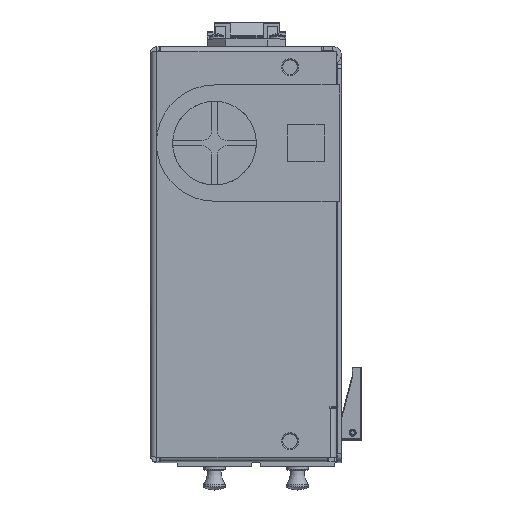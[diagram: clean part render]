
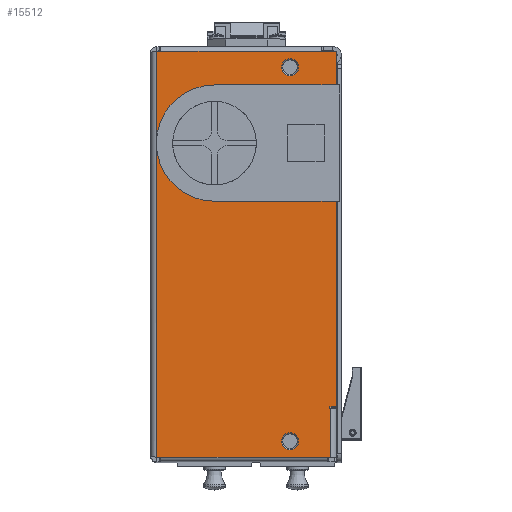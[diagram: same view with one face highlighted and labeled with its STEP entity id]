
A CAD part, top view. The second image highlights one B-rep face of the part: STEP entity #15512.
In plain terms, the highlighted planar face has unit normal (0, 0, 1) as drawn and (-1, 0, 0) by its records, which use the part's own axes.
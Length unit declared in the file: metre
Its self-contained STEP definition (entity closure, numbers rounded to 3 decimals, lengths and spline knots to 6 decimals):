
#1421=CIRCLE('',#18427,0.019368);
#1423=CIRCLE('',#18435,0.000254);
#1424=CIRCLE('',#18437,0.003239);
#1425=CIRCLE('',#18438,0.003239);
#4056=ORIENTED_EDGE('',*,*,#7108,.F.);
#4057=ORIENTED_EDGE('',*,*,#7109,.F.);
#4058=ORIENTED_EDGE('',*,*,#7080,.F.);
#4059=ORIENTED_EDGE('',*,*,#7110,.T.);
#4060=ORIENTED_EDGE('',*,*,#7081,.F.);
#4061=ORIENTED_EDGE('',*,*,#7087,.F.);
#4062=ORIENTED_EDGE('',*,*,#7090,.T.);
#4063=ORIENTED_EDGE('',*,*,#7111,.T.);
#4064=ORIENTED_EDGE('',*,*,#7091,.F.);
#4065=ORIENTED_EDGE('',*,*,#7097,.T.);
#4066=ORIENTED_EDGE('',*,*,#7112,.T.);
#4067=ORIENTED_EDGE('',*,*,#7101,.T.);
#4068=ORIENTED_EDGE('',*,*,#7113,.F.);
#4069=ORIENTED_EDGE('',*,*,#7105,.F.);
#4070=ORIENTED_EDGE('',*,*,#7107,.T.);
#4071=ORIENTED_EDGE('',*,*,#7077,.T.);
#7077=EDGE_CURVE('',#8812,#8814,#10131,.T.);
#7080=EDGE_CURVE('',#8816,#8814,#10134,.T.);
#7081=EDGE_CURVE('',#8817,#8818,#10135,.T.);
#7087=EDGE_CURVE('',#8822,#8817,#1421,.F.);
#7090=EDGE_CURVE('',#8822,#8824,#10142,.T.);
#7091=EDGE_CURVE('',#8825,#8826,#10143,.T.);
#7097=EDGE_CURVE('',#8825,#8830,#10148,.F.);
#7101=EDGE_CURVE('',#8832,#8834,#10151,.F.);
#7105=EDGE_CURVE('',#8838,#8836,#10155,.T.);
#7107=EDGE_CURVE('',#8838,#8812,#1423,.T.);
#7108=EDGE_CURVE('',#8839,#8839,#1424,.T.);
#7109=EDGE_CURVE('',#8840,#8840,#1425,.T.);
#7110=EDGE_CURVE('',#8816,#8818,#10156,.F.);
#7111=EDGE_CURVE('',#8824,#8826,#10157,.T.);
#7112=EDGE_CURVE('',#8830,#8832,#10158,.F.);
#7113=EDGE_CURVE('',#8836,#8834,#10159,.T.);
#8812=VERTEX_POINT('',#26556);
#8814=VERTEX_POINT('',#26560);
#8816=VERTEX_POINT('',#26566);
#8817=VERTEX_POINT('',#26570);
#8818=VERTEX_POINT('',#26571);
#8822=VERTEX_POINT('',#26581);
#8824=VERTEX_POINT('',#26587);
#8825=VERTEX_POINT('',#26591);
#8826=VERTEX_POINT('',#26592);
#8830=VERTEX_POINT('',#26605);
#8832=VERTEX_POINT('',#26613);
#8834=VERTEX_POINT('',#26617);
#8836=VERTEX_POINT('',#26622);
#8838=VERTEX_POINT('',#26626);
#8839=VERTEX_POINT('',#26633);
#8840=VERTEX_POINT('',#26635);
#10131=LINE('',#26561,#11547);
#10134=LINE('',#26567,#11550);
#10135=LINE('',#26569,#11551);
#10142=LINE('',#26588,#11558);
#10143=LINE('',#26590,#11559);
#10148=LINE('',#26606,#11564);
#10151=LINE('',#26618,#11567);
#10155=LINE('',#26627,#11571);
#10156=LINE('',#26636,#11572);
#10157=LINE('',#26637,#11573);
#10158=LINE('',#26638,#11574);
#10159=LINE('',#26639,#11575);
#11547=VECTOR('',#21529,1.);
#11550=VECTOR('',#21534,1.);
#11551=VECTOR('',#21537,1.);
#11558=VECTOR('',#21552,1.);
#11559=VECTOR('',#21555,1.);
#11564=VECTOR('',#21562,1.);
#11567=VECTOR('',#21567,1.);
#11571=VECTOR('',#21573,1.);
#11572=VECTOR('',#21586,1.);
#11573=VECTOR('',#21587,1.);
#11574=VECTOR('',#21588,1.);
#11575=VECTOR('',#21589,1.);
#12895=EDGE_LOOP('',(#4056));
#12896=EDGE_LOOP('',(#4057));
#12897=EDGE_LOOP('',(#4058,#4059,#4060,#4061,#4062,#4063,#4064,#4065,#4066,
#4067,#4068,#4069,#4070,#4071));
#14016=FACE_BOUND('',#12895,.T.);
#14017=FACE_BOUND('',#12896,.T.);
#14018=FACE_BOUND('',#12897,.T.);
#14758=PLANE('',#18436);
#15512=ADVANCED_FACE('',(#14016,#14017,#14018),#14758,.F.);
#18427=AXIS2_PLACEMENT_3D('',#26582,#21546,#21547);
#18435=AXIS2_PLACEMENT_3D('',#26630,#21578,#21579);
#18436=AXIS2_PLACEMENT_3D('',#26631,#21580,#21581);
#18437=AXIS2_PLACEMENT_3D('',#26632,#21582,#21583);
#18438=AXIS2_PLACEMENT_3D('',#26634,#21584,#21585);
#21529=DIRECTION('',(0.,0.,1.));
#21534=DIRECTION('',(0.,-1.,0.));
#21537=DIRECTION('',(0.,0.,1.));
#21546=DIRECTION('',(1.,0.,0.));
#21547=DIRECTION('',(0.,0.,-1.));
#21552=DIRECTION('',(0.,0.,1.));
#21555=DIRECTION('',(0.,-1.,0.));
#21562=DIRECTION('',(0.,0.,1.));
#21567=DIRECTION('',(0.,0.,-1.));
#21573=DIRECTION('',(0.,0.,1.));
#21578=DIRECTION('',(1.,0.,0.));
#21579=DIRECTION('',(0.,0.,-1.));
#21580=DIRECTION('',(1.,0.,0.));
#21581=DIRECTION('',(0.,1.,0.));
#21582=DIRECTION('',(-1.,0.,0.));
#21583=DIRECTION('',(0.,0.,1.));
#21584=DIRECTION('',(-1.,0.,0.));
#21585=DIRECTION('',(0.,0.,1.));
#21586=DIRECTION('',(0.,-0.707,0.707));
#21587=DIRECTION('',(0.,0.707,0.707));
#21588=DIRECTION('',(0.,1.,0.));
#21589=DIRECTION('',(0.,-1.,0.));
#26556=CARTESIAN_POINT('',(-0.0889,-0.058293,-0.00254));
#26560=CARTESIAN_POINT('',(-0.0889,-0.058293,0.));
#26561=CARTESIAN_POINT('',(-0.0889,-0.058293,-0.00127));
#26566=CARTESIAN_POINT('',(-0.0889,0.021844,0.));
#26567=CARTESIAN_POINT('',(-0.0889,0.,0.));
#26569=CARTESIAN_POINT('',(-0.0889,0.023114,-0.023336));
#26570=CARTESIAN_POINT('',(-0.0889,0.023114,-0.046673));
#26571=CARTESIAN_POINT('',(-0.0889,0.023114,-0.00127));
#26581=CARTESIAN_POINT('',(-0.0889,0.061849,-0.046673));
#26582=CARTESIAN_POINT('',(-0.0889,0.042482,-0.046673));
#26587=CARTESIAN_POINT('',(-0.0889,0.061849,-0.00127));
#26588=CARTESIAN_POINT('',(-0.0889,0.061849,-0.023336));
#26590=CARTESIAN_POINT('',(-0.0889,0.,0.));
#26591=CARTESIAN_POINT('',(-0.0889,0.077648,0.));
#26592=CARTESIAN_POINT('',(-0.0889,0.063119,0.));
#26605=CARTESIAN_POINT('',(-0.0889,0.077648,-0.068726));
#26606=CARTESIAN_POINT('',(-0.0889,0.077648,-0.00254));
#26613=CARTESIAN_POINT('',(-0.0889,-0.077648,-0.068726));
#26617=CARTESIAN_POINT('',(-0.0889,-0.077648,-0.002394));
#26618=CARTESIAN_POINT('',(-0.0889,-0.077648,-0.03556));
#26622=CARTESIAN_POINT('',(-0.0889,-0.058801,-0.002394));
#26626=CARTESIAN_POINT('',(-0.0889,-0.058801,-0.00254));
#26627=CARTESIAN_POINT('',(-0.0889,-0.058801,-0.00127));
#26630=CARTESIAN_POINT('',(-0.0889,-0.058547,-0.00254));
#26631=CARTESIAN_POINT('',(-0.0889,0.,-0.034671));
#26632=CARTESIAN_POINT('',(-0.0889,0.071501,-0.01778));
#26633=CARTESIAN_POINT('',(-0.0889,0.071501,-0.014542));
#26634=CARTESIAN_POINT('',(-0.0889,-0.071501,-0.01778));
#26635=CARTESIAN_POINT('',(-0.0889,-0.071501,-0.014542));
#26636=CARTESIAN_POINT('',(-0.0889,0.021844,0.));
#26637=CARTESIAN_POINT('',(-0.0889,0.061849,-0.00127));
#26638=CARTESIAN_POINT('',(-0.0889,0.,-0.068726));
#26639=CARTESIAN_POINT('',(-0.0889,0.,-0.002394));
